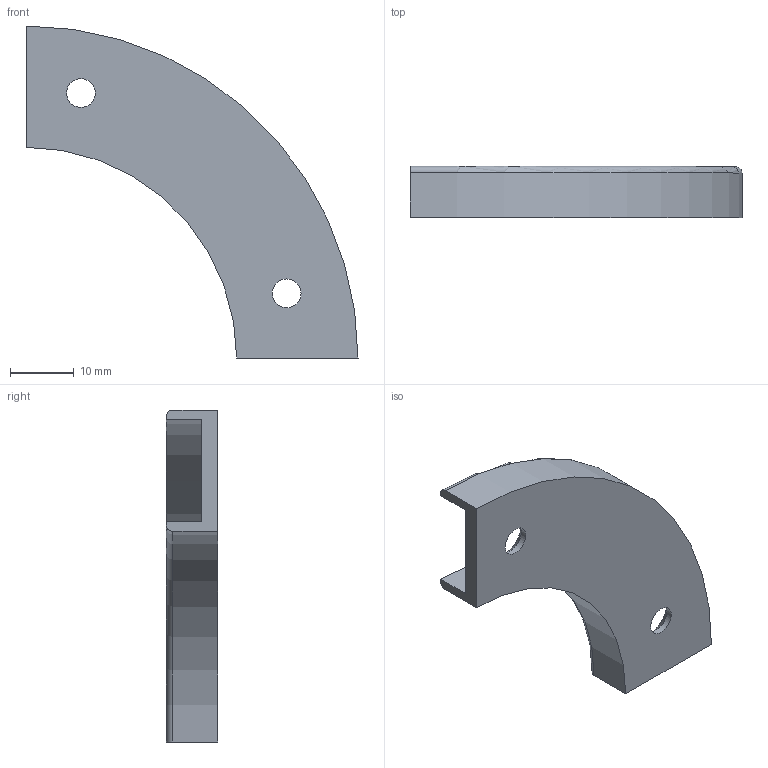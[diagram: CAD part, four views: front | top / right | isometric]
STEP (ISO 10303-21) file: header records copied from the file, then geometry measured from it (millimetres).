
FILE_DESCRIPTION(/* description */ (''),/* implementation_level */ '2;1');
FILE_NAME(/* name */ 'H:\3D_KONSTRUKCE\ROLETA+CHLEBNIK\ROLETA_RENDER\turnguide.stp',/* time_stamp */ '2016-01-21T10:49:26+01:00',/* author */ ('uidn2323'),/* organization */ (''),/* preprocessor_version */ 'ST-DEVELOPER v15.6',/* originating_system */ 'Autodesk Inventor 2015',/* authorisation */ '');
FILE_SCHEMA (('AUTOMOTIVE_DESIGN { 1 0 10303 214 3 1 1 }'));
Length unit declared in the file: millimetre
Products named in the file (1): lyžina_R4.5_MIR
Bounding box: 52 x 8 x 52 mm (x, y, z)
Volume: 4125.5 mm3; surface area: 4397.2 mm2
Topology: 1 solids, 1 shells, 16 faces, 40 edges, 26 vertices
Faces by surface type: plane 6, cylinder 6, cone 2, torus 2
Full cylindrical faces by diameter (mm): 4.5 x2
Entity records: 500 total; most frequent: DIRECTION 90, CARTESIAN_POINT 79, ORIENTED_EDGE 72, AXIS2_PLACEMENT_3D 37, EDGE_CURVE 36, VERTEX_POINT 26, EDGE_LOOP 24, CIRCLE 20
